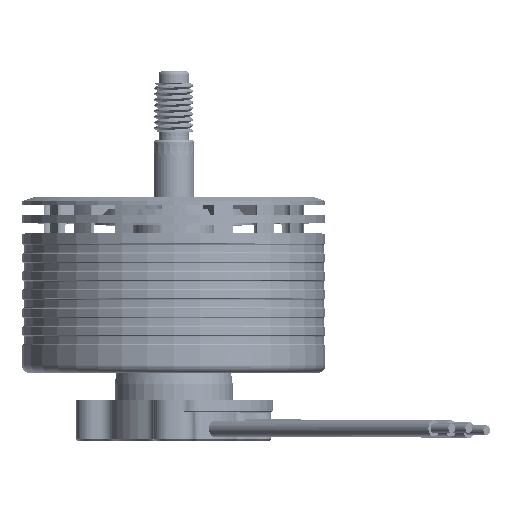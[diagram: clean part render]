
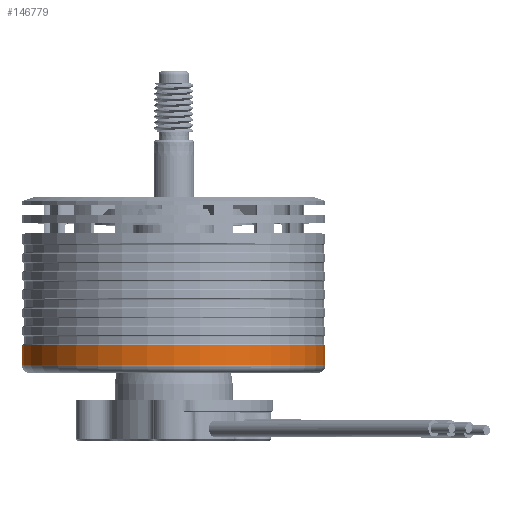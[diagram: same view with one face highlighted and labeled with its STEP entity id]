
A CAD part, top view. The second image highlights one B-rep face of the part: STEP entity #146779.
In plain terms, the highlighted cylindrical face has radius 18.65 mm (diameter 37.3 mm), a partial arc.
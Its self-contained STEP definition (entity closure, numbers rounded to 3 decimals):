
#938 = CARTESIAN_POINT ( 'NONE',  ( 18.65, -15.15, 0. ) ) ;
#6093 = CARTESIAN_POINT ( 'NONE',  ( -18.65, -15.15, 0. ) ) ;
#17354 = CARTESIAN_POINT ( 'NONE',  ( 18.65, -12.75, 0. ) ) ;
#18833 = ORIENTED_EDGE ( 'NONE', *, *, #197413, .T. ) ;
#19817 = ORIENTED_EDGE ( 'NONE', *, *, #74276, .T. ) ;
#21713 = CARTESIAN_POINT ( 'NONE',  ( 0., -12.75, 0. ) ) ;
#26213 = AXIS2_PLACEMENT_3D ( 'NONE', #298216, #204624, #91498 ) ;
#29553 = DIRECTION ( 'NONE',  ( 0., 1., 0. ) ) ;
#33168 = VERTEX_POINT ( 'NONE', #205343 ) ;
#34426 = VECTOR ( 'NONE', #230149, 1000. ) ;
#39620 = DIRECTION ( 'NONE',  ( 1., 0., 0. ) ) ;
#74276 = EDGE_CURVE ( 'NONE', #128639, #33168, #132041, .T. ) ;
#88054 = VERTEX_POINT ( 'NONE', #17354 ) ;
#91498 = DIRECTION ( 'NONE',  ( -1., 0., 0. ) ) ;
#112956 = ORIENTED_EDGE ( 'NONE', *, *, #181280, .T. ) ;
#121430 = CARTESIAN_POINT ( 'NONE',  ( -18.65, -15.15, 0. ) ) ;
#128639 = VERTEX_POINT ( 'NONE', #6093 ) ;
#132041 = CIRCLE ( 'NONE', #26213, 18.65 ) ;
#136212 = DIRECTION ( 'NONE',  ( 1., 0., 0. ) ) ;
#141235 = EDGE_CURVE ( 'NONE', #128639, #206474, #147051, .T. ) ;
#146779 = ADVANCED_FACE ( 'NONE', ( #178226 ), #179712, .T. ) ;
#147051 = LINE ( 'NONE', #121430, #262466 ) ;
#162069 = AXIS2_PLACEMENT_3D ( 'NONE', #21713, #226772, #136212 ) ;
#172871 = CARTESIAN_POINT ( 'NONE',  ( -18.65, -12.75, 0. ) ) ;
#177059 = AXIS2_PLACEMENT_3D ( 'NONE', #292981, #246180, #39620 ) ;
#178226 = FACE_OUTER_BOUND ( 'NONE', #280553, .T. ) ;
#179712 = CYLINDRICAL_SURFACE ( 'NONE', #177059, 18.65 ) ;
#181267 = ORIENTED_EDGE ( 'NONE', *, *, #141235, .F. ) ;
#181280 = EDGE_CURVE ( 'NONE', #33168, #88054, #225708, .T. ) ;
#181424 = CIRCLE ( 'NONE', #162069, 18.65 ) ;
#197413 = EDGE_CURVE ( 'NONE', #88054, #206474, #181424, .T. ) ;
#204624 = DIRECTION ( 'NONE',  ( 0., 1., 0. ) ) ;
#205343 = CARTESIAN_POINT ( 'NONE',  ( 18.65, -15.15, 0. ) ) ;
#206474 = VERTEX_POINT ( 'NONE', #172871 ) ;
#225708 = LINE ( 'NONE', #938, #34426 ) ;
#226772 = DIRECTION ( 'NONE',  ( 0., -1., 0. ) ) ;
#230149 = DIRECTION ( 'NONE',  ( 0., 1., 0. ) ) ;
#246180 = DIRECTION ( 'NONE',  ( 0., 1., 0. ) ) ;
#262466 = VECTOR ( 'NONE', #29553, 1000. ) ;
#280553 = EDGE_LOOP ( 'NONE', ( #181267, #19817, #112956, #18833 ) ) ;
#292981 = CARTESIAN_POINT ( 'NONE',  ( 0., -16.957, 0. ) ) ;
#298216 = CARTESIAN_POINT ( 'NONE',  ( 0., -15.15, 0. ) ) ;
